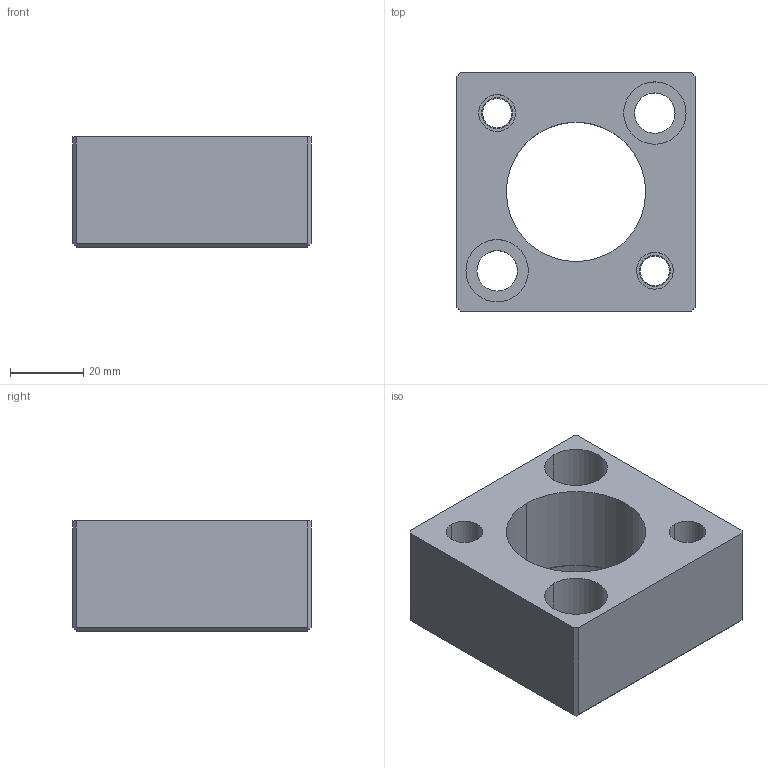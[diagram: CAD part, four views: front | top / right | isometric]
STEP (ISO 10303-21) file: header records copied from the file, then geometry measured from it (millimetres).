
FILE_DESCRIPTION(/* description */ (''),/* implementation_level */ '2;1');
FILE_NAME(/* name */ '3d_sr-an38_05466_r00.stp',/* time_stamp */ '2011-01-10T14:10:00+09:00',/* author */ ('MISUMI'),/* organization */ (''),/* preprocessor_version */ 'ST-DEVELOPER v11',/* originating_system */ 'UGS - NX 5.0',/* authorisation */ '');
FILE_SCHEMA (('CONFIG_CONTROL_DESIGN'));
Length unit declared in the file: millimetre
Products named in the file (1): 3d_sr-an38_05466_r00
Bounding box: 65 x 65 x 30 mm (x, y, z)
Volume: 78634.1 mm3; surface area: 21015 mm2
Topology: 1 solids, 1 shells, 47 faces, 112 edges, 74 vertices
Faces by surface type: cylinder 24, plane 21, cone 2
Entity records: 1486 total; most frequent: DIRECTION 258, CARTESIAN_POINT 234, ORIENTED_EDGE 224, EDGE_CURVE 112, AXIS2_PLACEMENT_3D 98, VERTEX_POINT 74, EDGE_LOOP 64, LINE 62
